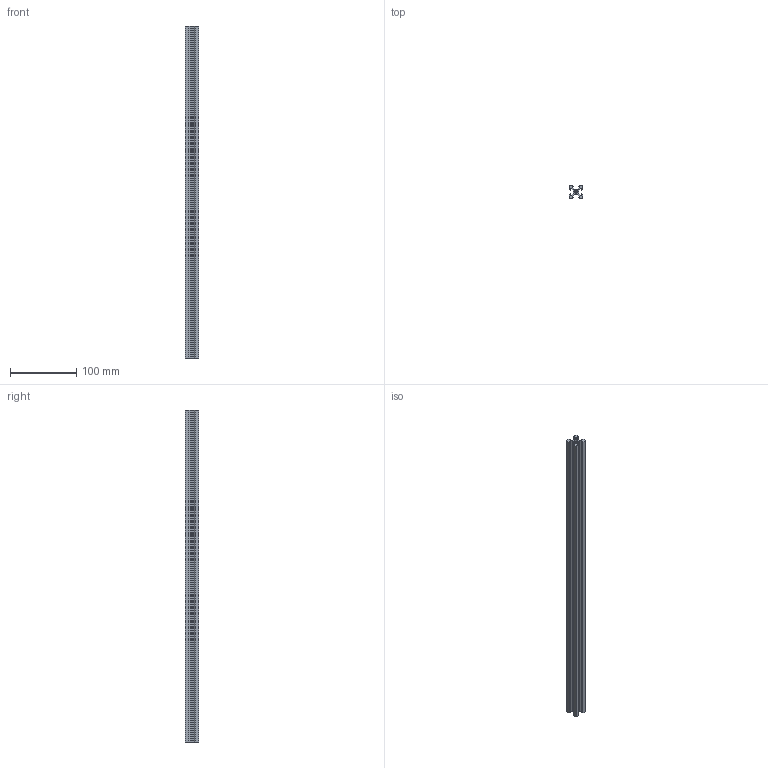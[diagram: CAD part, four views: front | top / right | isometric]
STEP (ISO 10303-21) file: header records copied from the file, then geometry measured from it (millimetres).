
FILE_DESCRIPTION(/* description */ (''),/* implementation_level */ '2;1');
FILE_NAME(/* name */ '20x20 V Slot Profile v5.step',/* time_stamp */ '2025-04-22T12:56:23+05:30',/* author */ (''),/* organization */ (''),/* preprocessor_version */ 'ST-DEVELOPER v20.1',/* originating_system */ 'Autodesk Translation Framework v14.4.0.0',/* authorisation */ '');
FILE_SCHEMA (('AUTOMOTIVE_DESIGN { 1 0 10303 214 3 1 1 }'));
Length unit declared in the file: millimetre
Products named in the file (1): 20x20 V Slot Profile
Bounding box: 20 x 20 x 500 mm (x, y, z)
Volume: 83941.4 mm3; surface area: 79163.7 mm2
Topology: 1 solids, 1 shells, 71 faces, 207 edges, 138 vertices
Faces by surface type: plane 50, cylinder 21
Full cylindrical faces by diameter (mm): 4.2 x1
Entity records: 2387 total; most frequent: CARTESIAN_POINT 417, ORIENTED_EDGE 414, DIRECTION 393, EDGE_CURVE 207, LINE 165, VECTOR 165, VERTEX_POINT 138, AXIS2_PLACEMENT_3D 114
